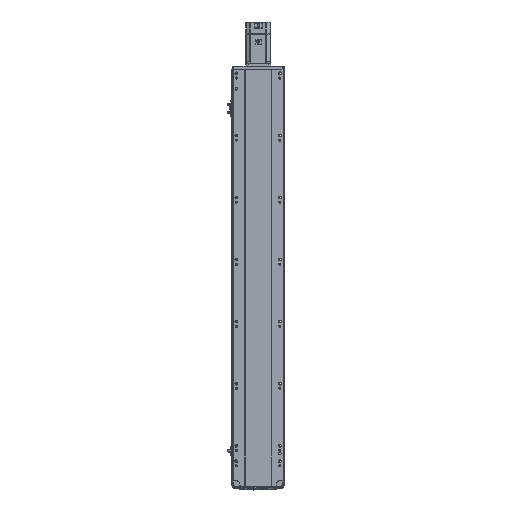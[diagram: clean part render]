
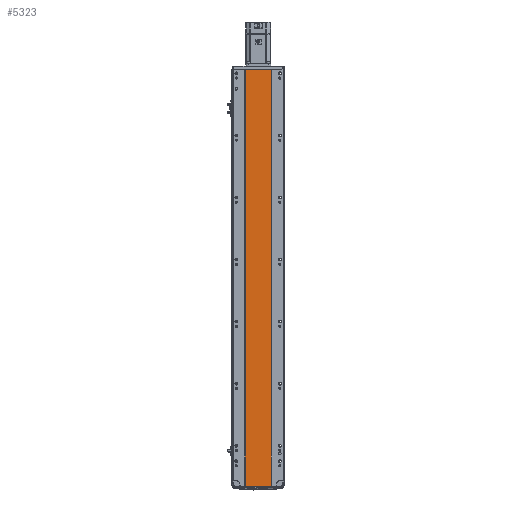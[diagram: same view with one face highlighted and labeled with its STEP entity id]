
A CAD part, front view. The second image highlights one B-rep face of the part: STEP entity #5323.
In plain terms, the highlighted planar face has unit normal (0, -1, 0).
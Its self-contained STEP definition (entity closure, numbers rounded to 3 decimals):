
#1922 = AXIS2_PLACEMENT_3D ( 'NONE', #39570, #27242, #14327 ) ;
#4534 = ORIENTED_EDGE ( 'NONE', *, *, #43118, .T. ) ;
#5323 = ADVANCED_FACE ( 'NONE', ( #53828 ), #18387, .F. ) ;
#5693 = CARTESIAN_POINT ( 'NONE',  ( 41.793, 0.998, 1343.5 ) ) ;
#6534 = EDGE_LOOP ( 'NONE', ( #24374, #17655, #47135, #4534 ) ) ;
#7198 = VECTOR ( 'NONE', #35870, 1000. ) ;
#7825 = VERTEX_POINT ( 'NONE', #39498 ) ;
#8060 = LINE ( 'NONE', #52319, #48337 ) ;
#9103 = EDGE_CURVE ( 'NONE', #7825, #40290, #8060, .T. ) ;
#9217 = LINE ( 'NONE', #36242, #7198 ) ;
#14327 = DIRECTION ( 'NONE',  ( -1., 0., 0. ) ) ;
#17655 = ORIENTED_EDGE ( 'NONE', *, *, #48371, .F. ) ;
#18387 = PLANE ( 'NONE',  #1922 ) ;
#19228 = VERTEX_POINT ( 'NONE', #41809 ) ;
#22189 = DIRECTION ( 'NONE',  ( 1., 0., 0. ) ) ;
#24065 = VECTOR ( 'NONE', #22189, 1000. ) ;
#24374 = ORIENTED_EDGE ( 'NONE', *, *, #32255, .T. ) ;
#24768 = LINE ( 'NONE', #32166, #34055 ) ;
#25137 = DIRECTION ( 'NONE',  ( 0., 0., -1. ) ) ;
#27242 = DIRECTION ( 'NONE',  ( 0., 1., 0. ) ) ;
#29362 = LINE ( 'NONE', #47397, #24065 ) ;
#31395 = DIRECTION ( 'NONE',  ( 1., 0., 0. ) ) ;
#32166 = CARTESIAN_POINT ( 'NONE',  ( 41.793, 0.998, 1343.5 ) ) ;
#32255 = EDGE_CURVE ( 'NONE', #19228, #51464, #29362, .T. ) ;
#34055 = VECTOR ( 'NONE', #25137, 1000. ) ;
#35870 = DIRECTION ( 'NONE',  ( 0., 0., -1. ) ) ;
#36242 = CARTESIAN_POINT ( 'NONE',  ( -41.791, 1., 1343.5 ) ) ;
#39498 = CARTESIAN_POINT ( 'NONE',  ( -41.791, 1., 1343.5 ) ) ;
#39570 = CARTESIAN_POINT ( 'NONE',  ( 0., 0.999, 1343.5 ) ) ;
#40290 = VERTEX_POINT ( 'NONE', #5693 ) ;
#41809 = CARTESIAN_POINT ( 'NONE',  ( -41.791, 1., 0. ) ) ;
#43118 = EDGE_CURVE ( 'NONE', #7825, #19228, #9217, .T. ) ;
#43774 = CARTESIAN_POINT ( 'NONE',  ( 41.793, 0.998, 0. ) ) ;
#47135 = ORIENTED_EDGE ( 'NONE', *, *, #9103, .F. ) ;
#47397 = CARTESIAN_POINT ( 'NONE',  ( 0., 0.999, 0. ) ) ;
#48337 = VECTOR ( 'NONE', #31395, 1000. ) ;
#48371 = EDGE_CURVE ( 'NONE', #40290, #51464, #24768, .T. ) ;
#51464 = VERTEX_POINT ( 'NONE', #43774 ) ;
#52319 = CARTESIAN_POINT ( 'NONE',  ( 0., 0.999, 1343.5 ) ) ;
#53828 = FACE_OUTER_BOUND ( 'NONE', #6534, .T. ) ;
